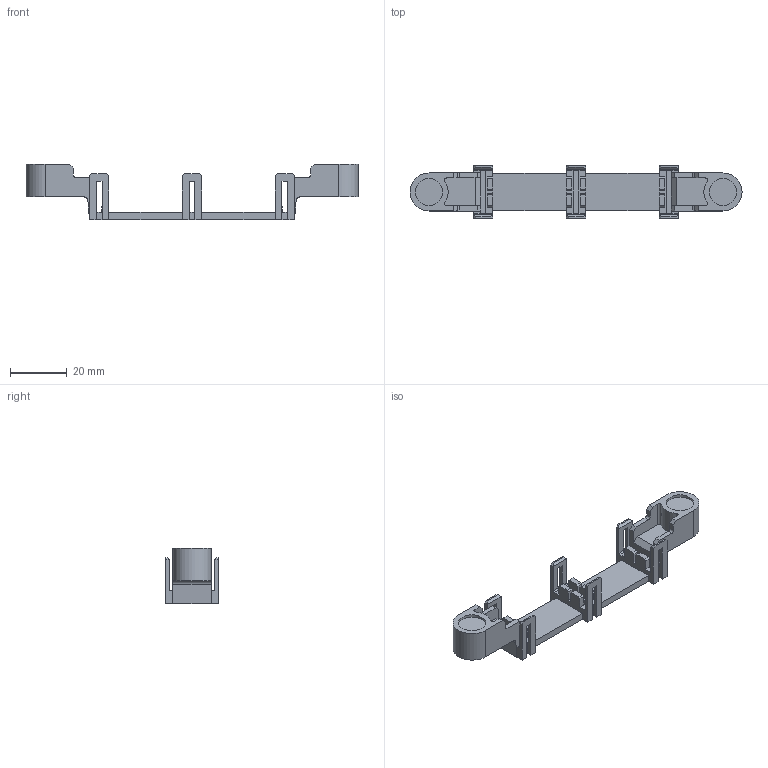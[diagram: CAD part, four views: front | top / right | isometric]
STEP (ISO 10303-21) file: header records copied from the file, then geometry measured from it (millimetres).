
FILE_DESCRIPTION((''),'2;1');
FILE_NAME('C-765250-1','2016-02-26T',('workeradm'),('Tyco Electronics Ltd.'),'CREO PARAMETRIC BY PTC INC, 2015200','CREO PARAMETRIC BY PTC INC, 2015200','');
FILE_SCHEMA(('AUTOMOTIVE_DESIGN { 1 0 10303 214 1 1 1 1 }'));
Length unit declared in the file: millimetre
Products named in the file (1): C-765250-1
Bounding box: 117.37 x 18.54 x 19.48 mm (x, y, z)
Volume: 8806.2 mm3; surface area: 7843.5 mm2
Topology: 1 solids, 1 shells, 212 faces, 638 edges, 420 vertices
Faces by surface type: plane 178, cylinder 34
Entity records: 7130 total; most frequent: ORIENTED_EDGE 1276, CARTESIAN_POINT 1272, DIRECTION 1130, EDGE_CURVE 638, VECTOR 570, LINE 570, VERTEX_POINT 420, AXIS2_PLACEMENT_3D 280
